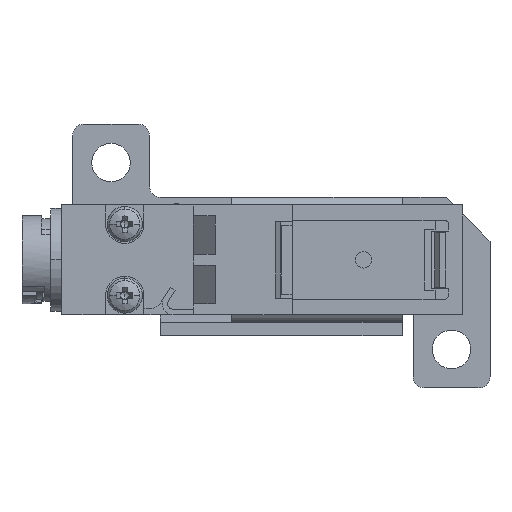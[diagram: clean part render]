
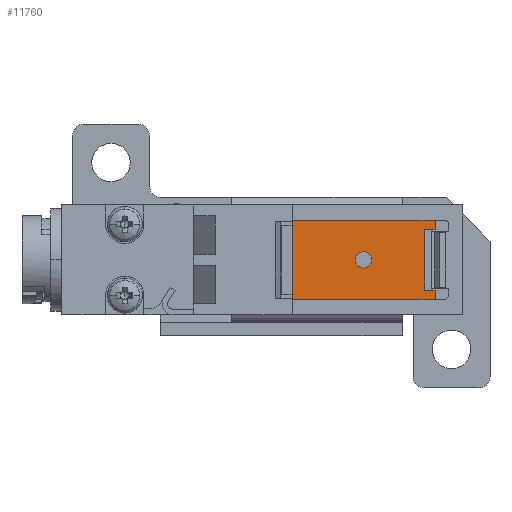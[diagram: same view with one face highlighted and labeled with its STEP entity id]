
A CAD part, left-side view. The second image highlights one B-rep face of the part: STEP entity #11760.
In plain terms, the highlighted planar face has unit normal (-1, 0, 0) as drawn and (0, 0, 1) by its records, which use the part's own axes.
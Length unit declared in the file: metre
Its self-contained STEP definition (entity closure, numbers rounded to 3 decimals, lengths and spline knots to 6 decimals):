
#78 = EDGE_CURVE ( 'NONE', #15778, #3952, #1325, .T. ) ;
#246 = CIRCLE ( 'NONE', #2230, 0.00075 ) ;
#355 = CARTESIAN_POINT ( 'NONE',  ( 0., 0.0101, 0.006 ) ) ;
#592 = DIRECTION ( 'NONE',  ( 0., 0., 1. ) ) ;
#650 = EDGE_CURVE ( 'NONE', #3952, #15778, #246, .T. ) ;
#666 = ORIENTED_EDGE ( 'NONE', *, *, #17536, .F. ) ;
#797 = DIRECTION ( 'NONE',  ( 1., 0., 0. ) ) ;
#1133 = VECTOR ( 'NONE', #3501, 1. ) ;
#1282 = CARTESIAN_POINT ( 'NONE',  ( -0.00275, 0.0046, 0.006 ) ) ;
#1325 = CIRCLE ( 'NONE', #5700, 0.00075 ) ;
#1384 = EDGE_CURVE ( 'NONE', #12515, #11045, #4799, .T. ) ;
#1808 = ORIENTED_EDGE ( 'NONE', *, *, #1384, .F. ) ;
#1879 = LINE ( 'NONE', #16449, #12606 ) ;
#2230 = AXIS2_PLACEMENT_3D ( 'NONE', #355, #592, #797 ) ;
#2258 = ORIENTED_EDGE ( 'NONE', *, *, #16446, .F. ) ;
#2413 = EDGE_LOOP ( 'NONE', ( #13495, #3921 ) ) ;
#2418 = CARTESIAN_POINT ( 'NONE',  ( -0.003188, 0.0036, 0.006 ) ) ;
#2434 = ORIENTED_EDGE ( 'NONE', *, *, #15866, .T. ) ;
#2567 = VECTOR ( 'NONE', #16452, 1. ) ;
#2825 = ORIENTED_EDGE ( 'NONE', *, *, #5658, .T. ) ;
#3318 = DIRECTION ( 'NONE',  ( 0., 1., 0. ) ) ;
#3501 = DIRECTION ( 'NONE',  ( 1., 0., 0. ) ) ;
#3860 = FACE_BOUND ( 'NONE', #2413, .T. ) ;
#3921 = ORIENTED_EDGE ( 'NONE', *, *, #78, .F. ) ;
#3952 = VERTEX_POINT ( 'NONE', #16045 ) ;
#4286 = VECTOR ( 'NONE', #11325, 1. ) ;
#4329 = EDGE_CURVE ( 'NONE', #12940, #8310, #5131, .T. ) ;
#4367 = CARTESIAN_POINT ( 'NONE',  ( -0.003625, 0.0036, 0.006 ) ) ;
#4799 = LINE ( 'NONE', #7704, #1133 ) ;
#5131 = LINE ( 'NONE', #15530, #4286 ) ;
#5200 = PLANE ( 'NONE',  #13322 ) ;
#5658 = EDGE_CURVE ( 'NONE', #10612, #14585, #15238, .T. ) ;
#5700 = AXIS2_PLACEMENT_3D ( 'NONE', #6949, #7012, #7076 ) ;
#5834 = CARTESIAN_POINT ( 'NONE',  ( -0.003625, 0.0166, 0.006 ) ) ;
#6579 = CARTESIAN_POINT ( 'NONE',  ( 0.003188, 0.0036, 0.006 ) ) ;
#6691 = LINE ( 'NONE', #6579, #2567 ) ;
#6949 = CARTESIAN_POINT ( 'NONE',  ( 0., 0.0101, 0.006 ) ) ;
#7012 = DIRECTION ( 'NONE',  ( 0., 0., 1. ) ) ;
#7076 = DIRECTION ( 'NONE',  ( 1., 0., 0. ) ) ;
#7197 = CARTESIAN_POINT ( 'NONE',  ( 0.003625, 0.0036, 0.006 ) ) ;
#7252 = VERTEX_POINT ( 'NONE', #7197 ) ;
#7439 = CARTESIAN_POINT ( 'NONE',  ( 0.003625, 0.0101, 0.006 ) ) ;
#7704 = CARTESIAN_POINT ( 'NONE',  ( 0., 0.0166, 0.006 ) ) ;
#8088 = DIRECTION ( 'NONE',  ( -1., 0., 0. ) ) ;
#8106 = CARTESIAN_POINT ( 'NONE',  ( -0.00075, 0.0101, 0.006 ) ) ;
#8310 = VERTEX_POINT ( 'NONE', #11765 ) ;
#8894 = CARTESIAN_POINT ( 'NONE',  ( -0.00275, 0.0036, 0.006 ) ) ;
#9587 = ORIENTED_EDGE ( 'NONE', *, *, #4329, .T. ) ;
#10025 = EDGE_CURVE ( 'NONE', #10612, #12515, #10650, .T. ) ;
#10144 = CARTESIAN_POINT ( 'NONE',  ( -0.003625, 0.0101, 0.006 ) ) ;
#10612 = VERTEX_POINT ( 'NONE', #4367 ) ;
#10650 = LINE ( 'NONE', #10144, #17731 ) ;
#10790 = DIRECTION ( 'NONE',  ( 1., 0., 0. ) ) ;
#11045 = VERTEX_POINT ( 'NONE', #13573 ) ;
#11325 = DIRECTION ( 'NONE',  ( 0., -1., 0. ) ) ;
#11697 = DIRECTION ( 'NONE',  ( 0., -1., 0. ) ) ;
#11760 = ADVANCED_FACE ( 'NONE', ( #3860, #17949 ), #5200, .F. ) ;
#11765 = CARTESIAN_POINT ( 'NONE',  ( 0.00275, 0.0036, 0.006 ) ) ;
#11843 = VERTEX_POINT ( 'NONE', #1282 ) ;
#12443 = LINE ( 'NONE', #17312, #14855 ) ;
#12515 = VERTEX_POINT ( 'NONE', #5834 ) ;
#12606 = VECTOR ( 'NONE', #17882, 1. ) ;
#12940 = VERTEX_POINT ( 'NONE', #13832 ) ;
#12987 = DIRECTION ( 'NONE',  ( 0., 1., 0. ) ) ;
#13021 = ORIENTED_EDGE ( 'NONE', *, *, #10025, .F. ) ;
#13070 = VECTOR ( 'NONE', #11697, 1. ) ;
#13322 = AXIS2_PLACEMENT_3D ( 'NONE', #17912, #16550, #8088 ) ;
#13495 = ORIENTED_EDGE ( 'NONE', *, *, #650, .F. ) ;
#13573 = CARTESIAN_POINT ( 'NONE',  ( 0.003625, 0.0166, 0.006 ) ) ;
#13832 = CARTESIAN_POINT ( 'NONE',  ( 0.00275, 0.0046, 0.006 ) ) ;
#14585 = VERTEX_POINT ( 'NONE', #8894 ) ;
#14659 = EDGE_LOOP ( 'NONE', ( #2434, #666, #9587, #15686, #2258, #1808, #13021, #2825 ) ) ;
#14855 = VECTOR ( 'NONE', #3318, 1. ) ;
#15238 = LINE ( 'NONE', #2418, #18121 ) ;
#15530 = CARTESIAN_POINT ( 'NONE',  ( 0.00275, 0.0041, 0.006 ) ) ;
#15686 = ORIENTED_EDGE ( 'NONE', *, *, #16177, .T. ) ;
#15778 = VERTEX_POINT ( 'NONE', #8106 ) ;
#15866 = EDGE_CURVE ( 'NONE', #14585, #11843, #12443, .T. ) ;
#16045 = CARTESIAN_POINT ( 'NONE',  ( 0.00075, 0.0101, 0.006 ) ) ;
#16177 = EDGE_CURVE ( 'NONE', #8310, #7252, #6691, .T. ) ;
#16446 = EDGE_CURVE ( 'NONE', #11045, #7252, #16833, .T. ) ;
#16449 = CARTESIAN_POINT ( 'NONE',  ( 0., 0.0046, 0.006 ) ) ;
#16452 = DIRECTION ( 'NONE',  ( 1., 0., 0. ) ) ;
#16550 = DIRECTION ( 'NONE',  ( 0., 0., -1. ) ) ;
#16833 = LINE ( 'NONE', #7439, #13070 ) ;
#17312 = CARTESIAN_POINT ( 'NONE',  ( -0.00275, 0.0041, 0.006 ) ) ;
#17536 = EDGE_CURVE ( 'NONE', #12940, #11843, #1879, .T. ) ;
#17731 = VECTOR ( 'NONE', #12987, 1. ) ;
#17882 = DIRECTION ( 'NONE',  ( -1., 0., 0. ) ) ;
#17912 = CARTESIAN_POINT ( 'NONE',  ( 0.003625, 0.0036, 0.006 ) ) ;
#17949 = FACE_OUTER_BOUND ( 'NONE', #14659, .T. ) ;
#18121 = VECTOR ( 'NONE', #10790, 1. ) ;
